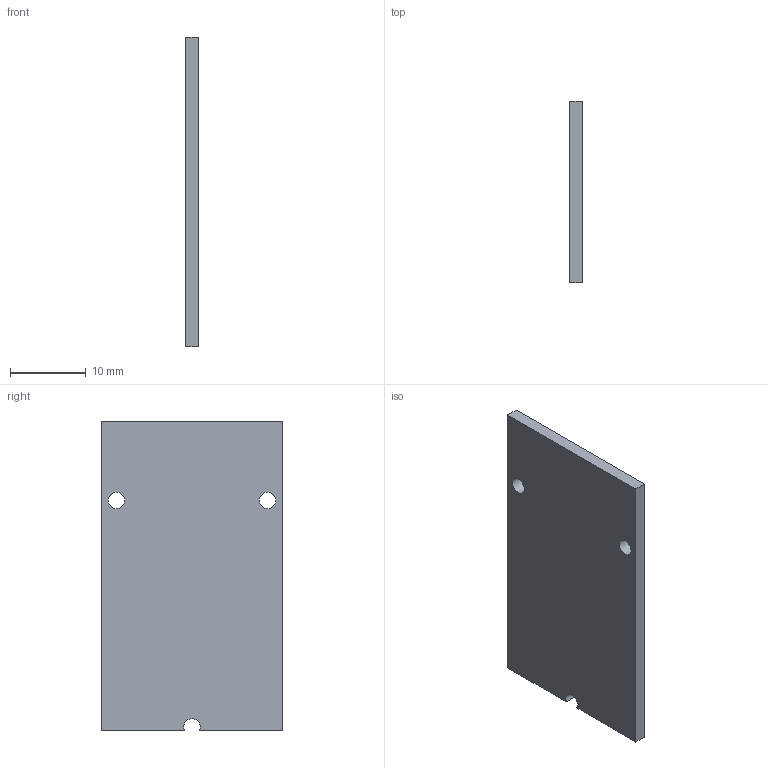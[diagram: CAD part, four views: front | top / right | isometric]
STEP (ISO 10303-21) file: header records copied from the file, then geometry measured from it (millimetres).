
FILE_DESCRIPTION(('Open CASCADE Model'),'2;1');
FILE_NAME('Open CASCADE Shape Model','2026-10-06T03:35:42',('Author'),( 'Open CASCADE'),'Open CASCADE STEP processor 7.8','Open CASCADE 7.8' ,'Unknown');
FILE_SCHEMA(('AUTOMOTIVE_DESIGN { 1 0 10303 214 1 1 1 1 }'));
Length unit declared in the file: millimetre
Products named in the file (1): Open CASCADE STEP translator 7.8 15
Bounding box: 1.6 x 24 x 41 mm (x, y, z)
Volume: 1557.5 mm3; surface area: 2181 mm2
Topology: 1 solids, 1 shells, 10 faces, 24 edges, 16 vertices
Faces by surface type: plane 7, cylinder 3
Full cylindrical faces by diameter (mm): 2.2 x2
Entity records: 642 total; most frequent: CARTESIAN_POINT 135, DIRECTION 94, LINE 60, VECTOR 60, ORIENTED_EDGE 48, PCURVE 48, DEFINITIONAL_REPRESENTATION 48, EDGE_CURVE 24
